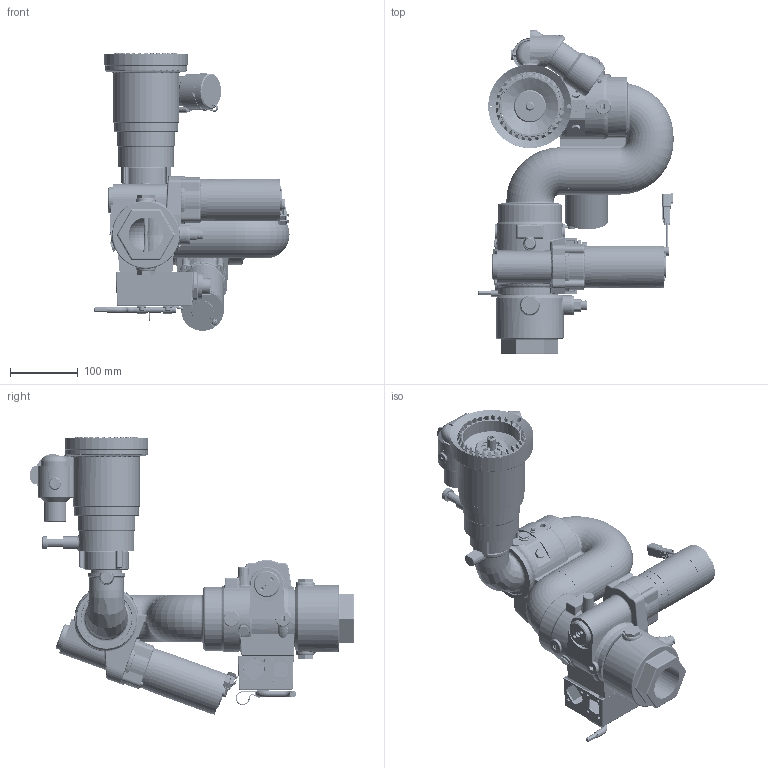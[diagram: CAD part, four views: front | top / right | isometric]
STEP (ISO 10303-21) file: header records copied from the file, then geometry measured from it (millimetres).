
FILE_DESCRIPTION((''),'2;1');
FILE_NAME('D45632_SW0002','2010-11-19T',('jdetw'),(''),'PRO/ENGINEER BY PARAMETRIC TECHNOLOGY CORPORATION, 2008010','PRO/ENGINEER BY PARAMETRIC TECHNOLOGY CORPORATION, 2008010','');
FILE_SCHEMA(('CONFIG_CONTROL_DESIGN'));
Length unit declared in the file: inch
Products named in the file (1): D45632_SW0002
Bounding box: 288.93 x 480.47 x 411.17 mm (x, y, z)
Volume: 4421771.9 mm3; surface area: 1044621.4 mm2
Topology: 8 solids, 14 shells, 4672 faces, 11987 edges, 7601 vertices
Faces by surface type: plane 2145, cylinder 1435, torus 399, bspline 327, cone 310, sphere 52, extrusion 4
Entity records: 212165 total; most frequent: CARTESIAN_POINT 101240, ORIENTED_EDGE 23864, DIRECTION 22014, EDGE_CURVE 11932, AXIS2_PLACEMENT_3D 7833, VERTEX_POINT 7601, VECTOR 6348, LINE 6344
